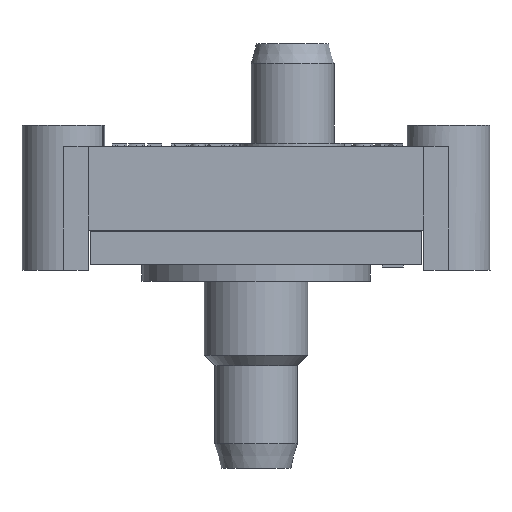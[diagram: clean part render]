
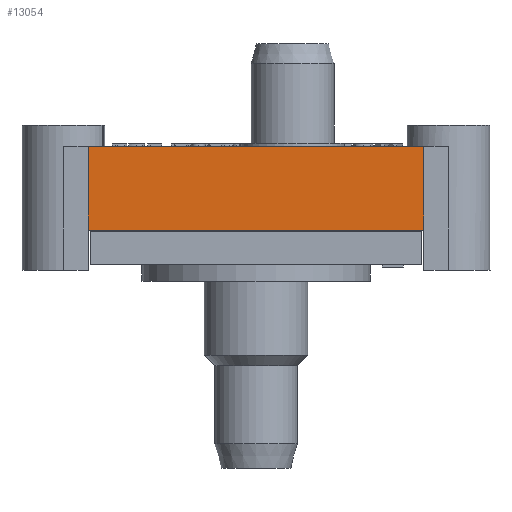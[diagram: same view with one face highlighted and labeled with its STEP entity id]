
A CAD part, front view. The second image highlights one B-rep face of the part: STEP entity #13054.
In plain terms, the highlighted planar face has unit normal (0, -1, 0) as drawn and (0, 1, 0) by its records, which use the part's own axes.
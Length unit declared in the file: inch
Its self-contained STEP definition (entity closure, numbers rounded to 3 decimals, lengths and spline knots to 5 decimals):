
#454=CARTESIAN_POINT('',(-0.505,0.5,0.0));
#455=VERTEX_POINT('',#454);
#462=CARTESIAN_POINT('',(-0.505,0.5,-0.252));
#463=VERTEX_POINT('',#462);
#464=CARTESIAN_POINT('',(-0.505,0.5,0.0));
#465=DIRECTION('',(0.0,0.0,-1.0));
#466=VECTOR('',#465,0.252);
#467=LINE('',#464,#466);
#468=EDGE_CURVE('',#455,#463,#467,.T.);
#899=CARTESIAN_POINT('',(0.505,0.5,0.0));
#900=VERTEX_POINT('',#899);
#907=CARTESIAN_POINT('',(-0.505,0.5,0.0));
#908=DIRECTION('',(1.0,0.0,0.0));
#909=VECTOR('',#908,1.01);
#910=LINE('',#907,#909);
#911=EDGE_CURVE('',#455,#900,#910,.T.);
#3224=CARTESIAN_POINT('',(0.505,0.5,-0.252));
#3225=VERTEX_POINT('',#3224);
#3232=CARTESIAN_POINT('',(0.505,0.5,0.0));
#3233=DIRECTION('',(0.0,0.0,-1.0));
#3234=VECTOR('',#3233,0.252);
#3235=LINE('',#3232,#3234);
#3236=EDGE_CURVE('',#900,#3225,#3235,.T.);
#13038=CARTESIAN_POINT('',(0.505,0.5,0.0));
#13039=DIRECTION('',(0.0,1.0,0.0));
#13040=DIRECTION('',(0.0,0.0,1.0));
#13041=AXIS2_PLACEMENT_3D('',#13038,#13039,#13040);
#13042=PLANE('',#13041);
#13043=CARTESIAN_POINT('',(0.505,0.5,-0.252));
#13044=DIRECTION('',(-1.0,0.0,0.0));
#13045=VECTOR('',#13044,1.01);
#13046=LINE('',#13043,#13045);
#13047=EDGE_CURVE('',#3225,#463,#13046,.T.);
#13048=ORIENTED_EDGE('',*,*,#13047,.T.);
#13049=ORIENTED_EDGE('',*,*,#468,.F.);
#13050=ORIENTED_EDGE('',*,*,#911,.T.);
#13051=ORIENTED_EDGE('',*,*,#3236,.T.);
#13052=EDGE_LOOP('',(#13048,#13049,#13050,#13051));
#13053=FACE_OUTER_BOUND('',#13052,.T.);
#13054=ADVANCED_FACE('',(#13053),#13042,.T.);
